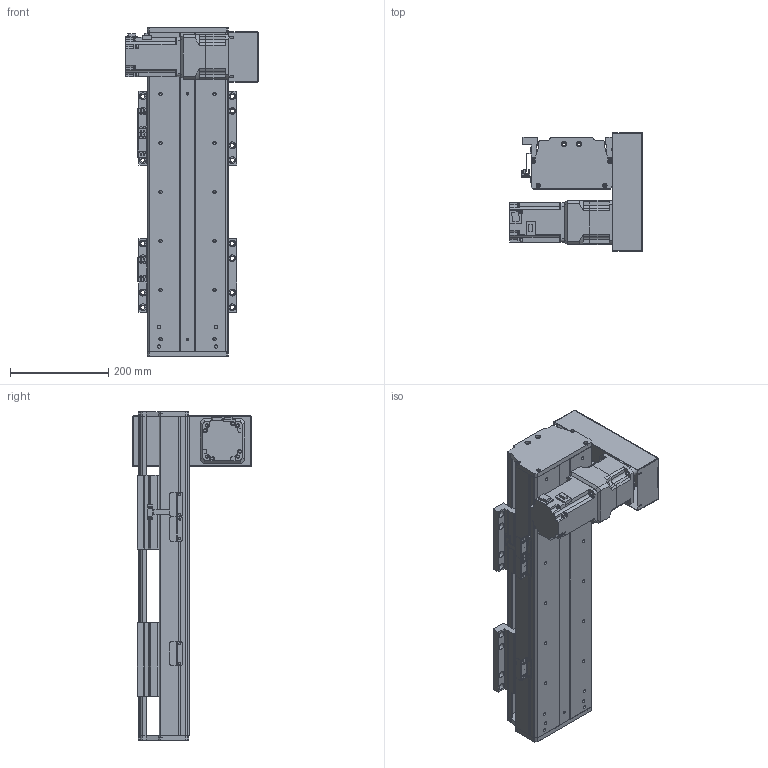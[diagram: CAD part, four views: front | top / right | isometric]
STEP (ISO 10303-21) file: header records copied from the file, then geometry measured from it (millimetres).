
FILE_DESCRIPTION(/* description */ (''),/* implementation_level */ '2;1');
FILE_NAME(/* name */ 'C:\Users\PC\Desktop\3D도면\STEP\새 폴더\DSB165-DR7G-W0300-L.stp',/* time_stamp */ '2018-06-25T15:49:15+09:00',/* author */ ('PC'),/* organization */ (''),/* preprocessor_version */ 'ST-DEVELOPER v16.5',/* originating_system */ 'Autodesk Inventor 2017',/* authorisation */ '');
FILE_SCHEMA (('AUTOMOTIVE_DESIGN { 1 0 10303 214 3 1 1 }'));
Length unit declared in the file: millimetre
Products named in the file (12): DSB165-DL7G-W0300-R_MIR; DSB165-BASE-L_MIR; hg-kr73__MIR; ab0901-p0401300102_MIR; 11-DSB165 BELT COVER_MIR; 12-DSB165-REAR COVER_MIR; 14-DSB165-FRONT COVER_MIR; DSB165-UP COVER_MIR; DSB165-TABLE(MSB20S)_MIR; DSR165-SENSOR DOG_MIR; SENSOR BRACKET(EE-SX674A)_MIR; pm-y65_step_MIR
Assembly tree (16 placements, depth 2):
  DSB165-DL7G-W0300-R_MIR
    DSB165-BASE-L_MIR
    hg-kr73__MIR
    ab0901-p0401300102_MIR
    11-DSB165 BELT COVER_MIR
    12-DSB165-REAR COVER_MIR
    14-DSB165-FRONT COVER_MIR
    DSB165-UP COVER_MIR
    DSB165-TABLE(MSB20S)_MIR  x2
    DSR165-SENSOR DOG_MIR
    pm-y65_step_MIR  x3
    SENSOR BRACKET(EE-SX674A)_MIR  x3
Bounding box: 270 x 242 x 670 mm (x, y, z)
Volume: 5670122.3 mm3; surface area: 1291547.9 mm2
Topology: 17 solids, 17 shells, 1621 faces, 4366 edges, 2884 vertices
Faces by surface type: plane 921, cylinder 596, cone 92, sphere 8, torus 4
Full cylindrical faces by diameter (mm): 2.459 x20, 3.5 x6, 4.134 x34, 4.5 x18, 5 x27, 5.5 x36, 5.9 x4, 6 x4, 6.6 x14, 6.647 x28, 6.8 x1, 7 x4, 7.6 x4, 8.4 x1, 8.5 x24, 8.7 x1, 9.5 x32, 11 x6, 14 x16, 19 x1, 22 x1, 24 x1, 25 x1, 28 x1, 67 x1, 70 x2, 80 x1
Entity records: 35164 total; most frequent: DIRECTION 6074, CARTESIAN_POINT 5931, ORIENTED_EDGE 5442, EDGE_CURVE 2721, AXIS2_PLACEMENT_3D 2207, VERTEX_POINT 1926, LINE 1660, VECTOR 1660
